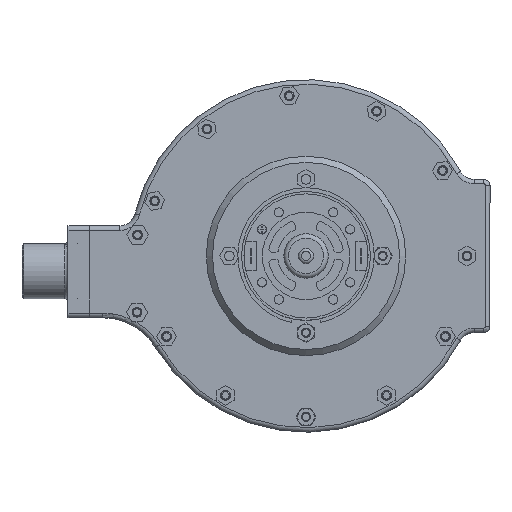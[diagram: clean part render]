
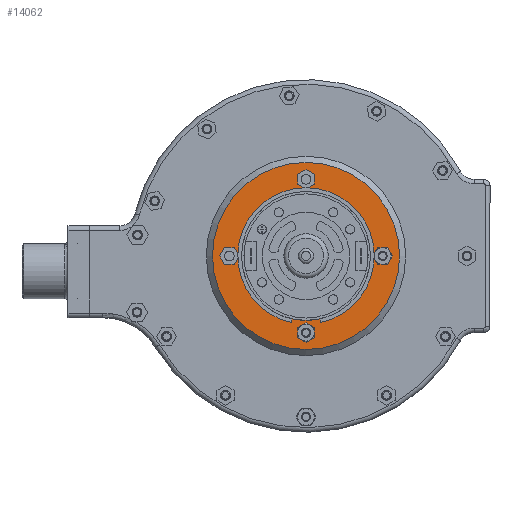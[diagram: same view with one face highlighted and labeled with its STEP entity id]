
A CAD part, front view. The second image highlights one B-rep face of the part: STEP entity #14062.
In plain terms, the highlighted planar face has unit normal (0, -1, 0).
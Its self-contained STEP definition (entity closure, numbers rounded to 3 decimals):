
#553=FACE_BOUND('',#4454,.T.);
#554=FACE_BOUND('',#4455,.T.);
#555=FACE_BOUND('',#4456,.T.);
#556=FACE_BOUND('',#4457,.T.);
#557=FACE_BOUND('',#4458,.T.);
#1156=LINE('',#25245,#2125);
#1159=LINE('',#25251,#2128);
#1162=LINE('',#25257,#2131);
#1165=LINE('',#25263,#2134);
#1168=LINE('',#25269,#2137);
#1171=LINE('',#25273,#2140);
#1174=LINE('',#25281,#2143);
#1177=LINE('',#25287,#2146);
#1180=LINE('',#25293,#2149);
#1183=LINE('',#25299,#2152);
#1186=LINE('',#25305,#2155);
#1189=LINE('',#25309,#2158);
#1192=LINE('',#25317,#2161);
#1195=LINE('',#25323,#2164);
#1198=LINE('',#25329,#2167);
#1201=LINE('',#25335,#2170);
#1204=LINE('',#25341,#2173);
#1207=LINE('',#25345,#2176);
#1210=LINE('',#25353,#2179);
#1213=LINE('',#25359,#2182);
#1216=LINE('',#25365,#2185);
#1219=LINE('',#25371,#2188);
#1222=LINE('',#25377,#2191);
#1225=LINE('',#25381,#2194);
#2125=VECTOR('',#17247,10.);
#2128=VECTOR('',#17252,10.);
#2131=VECTOR('',#17257,10.);
#2134=VECTOR('',#17262,10.);
#2137=VECTOR('',#17267,10.);
#2140=VECTOR('',#17272,10.);
#2143=VECTOR('',#17277,10.);
#2146=VECTOR('',#17282,10.);
#2149=VECTOR('',#17287,10.);
#2152=VECTOR('',#17292,10.);
#2155=VECTOR('',#17297,10.);
#2158=VECTOR('',#17302,10.);
#2161=VECTOR('',#17307,10.);
#2164=VECTOR('',#17312,10.);
#2167=VECTOR('',#17317,10.);
#2170=VECTOR('',#17322,10.);
#2173=VECTOR('',#17327,10.);
#2176=VECTOR('',#17332,10.);
#2179=VECTOR('',#17337,10.);
#2182=VECTOR('',#17342,10.);
#2185=VECTOR('',#17347,10.);
#2188=VECTOR('',#17352,10.);
#2191=VECTOR('',#17357,10.);
#2194=VECTOR('',#17362,10.);
#3080=PLANE('',#15475);
#3588=FACE_OUTER_BOUND('',#4453,.T.);
#4453=EDGE_LOOP('',(#10570));
#4454=EDGE_LOOP('',(#10571,#10572,#10573,#10574,#10575,#10576));
#4455=EDGE_LOOP('',(#10577,#10578,#10579,#10580,#10581,#10582));
#4456=EDGE_LOOP('',(#10583,#10584,#10585,#10586,#10587,#10588));
#4457=EDGE_LOOP('',(#10589,#10590,#10591,#10592,#10593,#10594));
#4458=EDGE_LOOP('',(#10595));
#5770=CIRCLE('',#15472,30.5);
#5773=CIRCLE('',#15476,16.);
#6608=VERTEX_POINT('',#25242);
#6609=VERTEX_POINT('',#25244);
#6611=VERTEX_POINT('',#25250);
#6613=VERTEX_POINT('',#25256);
#6615=VERTEX_POINT('',#25262);
#6617=VERTEX_POINT('',#25268);
#6620=VERTEX_POINT('',#25278);
#6621=VERTEX_POINT('',#25280);
#6623=VERTEX_POINT('',#25286);
#6625=VERTEX_POINT('',#25292);
#6627=VERTEX_POINT('',#25298);
#6629=VERTEX_POINT('',#25304);
#6632=VERTEX_POINT('',#25314);
#6633=VERTEX_POINT('',#25316);
#6635=VERTEX_POINT('',#25322);
#6637=VERTEX_POINT('',#25328);
#6639=VERTEX_POINT('',#25334);
#6641=VERTEX_POINT('',#25340);
#6644=VERTEX_POINT('',#25350);
#6645=VERTEX_POINT('',#25352);
#6647=VERTEX_POINT('',#25358);
#6649=VERTEX_POINT('',#25364);
#6651=VERTEX_POINT('',#25370);
#6653=VERTEX_POINT('',#25376);
#6654=VERTEX_POINT('',#25383);
#6657=VERTEX_POINT('',#25391);
#8071=EDGE_CURVE('',#6609,#6608,#1156,.T.);
#8074=EDGE_CURVE('',#6611,#6609,#1159,.T.);
#8077=EDGE_CURVE('',#6613,#6611,#1162,.T.);
#8080=EDGE_CURVE('',#6615,#6613,#1165,.T.);
#8083=EDGE_CURVE('',#6617,#6615,#1168,.T.);
#8086=EDGE_CURVE('',#6608,#6617,#1171,.T.);
#8089=EDGE_CURVE('',#6621,#6620,#1174,.T.);
#8092=EDGE_CURVE('',#6623,#6621,#1177,.T.);
#8095=EDGE_CURVE('',#6625,#6623,#1180,.T.);
#8098=EDGE_CURVE('',#6627,#6625,#1183,.T.);
#8101=EDGE_CURVE('',#6629,#6627,#1186,.T.);
#8104=EDGE_CURVE('',#6620,#6629,#1189,.T.);
#8107=EDGE_CURVE('',#6633,#6632,#1192,.T.);
#8110=EDGE_CURVE('',#6635,#6633,#1195,.T.);
#8113=EDGE_CURVE('',#6637,#6635,#1198,.T.);
#8116=EDGE_CURVE('',#6639,#6637,#1201,.T.);
#8119=EDGE_CURVE('',#6641,#6639,#1204,.T.);
#8122=EDGE_CURVE('',#6632,#6641,#1207,.T.);
#8125=EDGE_CURVE('',#6645,#6644,#1210,.T.);
#8128=EDGE_CURVE('',#6647,#6645,#1213,.T.);
#8131=EDGE_CURVE('',#6649,#6647,#1216,.T.);
#8134=EDGE_CURVE('',#6651,#6649,#1219,.T.);
#8137=EDGE_CURVE('',#6653,#6651,#1222,.T.);
#8140=EDGE_CURVE('',#6644,#6653,#1225,.T.);
#8141=EDGE_CURVE('',#6654,#6654,#5770,.T.);
#8145=EDGE_CURVE('',#6657,#6657,#5773,.T.);
#10570=ORIENTED_EDGE('',*,*,#8141,.F.);
#10571=ORIENTED_EDGE('',*,*,#8071,.T.);
#10572=ORIENTED_EDGE('',*,*,#8086,.T.);
#10573=ORIENTED_EDGE('',*,*,#8083,.T.);
#10574=ORIENTED_EDGE('',*,*,#8080,.T.);
#10575=ORIENTED_EDGE('',*,*,#8077,.T.);
#10576=ORIENTED_EDGE('',*,*,#8074,.T.);
#10577=ORIENTED_EDGE('',*,*,#8089,.T.);
#10578=ORIENTED_EDGE('',*,*,#8104,.T.);
#10579=ORIENTED_EDGE('',*,*,#8101,.T.);
#10580=ORIENTED_EDGE('',*,*,#8098,.T.);
#10581=ORIENTED_EDGE('',*,*,#8095,.T.);
#10582=ORIENTED_EDGE('',*,*,#8092,.T.);
#10583=ORIENTED_EDGE('',*,*,#8107,.T.);
#10584=ORIENTED_EDGE('',*,*,#8122,.T.);
#10585=ORIENTED_EDGE('',*,*,#8119,.T.);
#10586=ORIENTED_EDGE('',*,*,#8116,.T.);
#10587=ORIENTED_EDGE('',*,*,#8113,.T.);
#10588=ORIENTED_EDGE('',*,*,#8110,.T.);
#10589=ORIENTED_EDGE('',*,*,#8125,.T.);
#10590=ORIENTED_EDGE('',*,*,#8140,.T.);
#10591=ORIENTED_EDGE('',*,*,#8137,.T.);
#10592=ORIENTED_EDGE('',*,*,#8134,.T.);
#10593=ORIENTED_EDGE('',*,*,#8131,.T.);
#10594=ORIENTED_EDGE('',*,*,#8128,.T.);
#10595=ORIENTED_EDGE('',*,*,#8145,.F.);
#14062=ADVANCED_FACE('',(#3588,#553,#554,#555,#556,#557),#3080,.F.);
#15472=AXIS2_PLACEMENT_3D('',#25384,#17365,#17366);
#15475=AXIS2_PLACEMENT_3D('',#25390,#17372,#17373);
#15476=AXIS2_PLACEMENT_3D('',#25392,#17374,#17375);
#17247=DIRECTION('',(0.,0.,1.));
#17252=DIRECTION('',(-0.866,0.,0.5));
#17257=DIRECTION('',(-0.866,0.,-0.5));
#17262=DIRECTION('',(0.,0.,-1.));
#17267=DIRECTION('',(0.866,0.,-0.5));
#17272=DIRECTION('',(0.866,0.,0.5));
#17277=DIRECTION('',(1.,0.,0.));
#17282=DIRECTION('',(0.5,0.,0.866));
#17287=DIRECTION('',(-0.5,0.,0.866));
#17292=DIRECTION('',(-1.,0.,0.));
#17297=DIRECTION('',(-0.5,0.,-0.866));
#17302=DIRECTION('',(0.5,0.,-0.866));
#17307=DIRECTION('',(0.,0.,-1.));
#17312=DIRECTION('',(0.866,0.,-0.5));
#17317=DIRECTION('',(0.866,0.,0.5));
#17322=DIRECTION('',(0.,0.,1.));
#17327=DIRECTION('',(-0.866,0.,0.5));
#17332=DIRECTION('',(-0.866,0.,-0.5));
#17337=DIRECTION('',(-1.,0.,0.));
#17342=DIRECTION('',(-0.5,0.,-0.866));
#17347=DIRECTION('',(0.5,0.,-0.866));
#17352=DIRECTION('',(1.,0.,0.));
#17357=DIRECTION('',(0.5,0.,0.866));
#17362=DIRECTION('',(-0.5,0.,0.866));
#17365=DIRECTION('center_axis',(0.,1.,0.));
#17366=DIRECTION('ref_axis',(-1.,0.,0.));
#17372=DIRECTION('center_axis',(0.,1.,0.));
#17373=DIRECTION('ref_axis',(0.,0.,1.));
#17374=DIRECTION('center_axis',(0.,-1.,0.));
#17375=DIRECTION('ref_axis',(-1.,0.,0.));
#25242=CARTESIAN_POINT('',(-2.749,54.5,26.589));
#25244=CARTESIAN_POINT('',(-2.751,54.5,23.413));
#25245=CARTESIAN_POINT('',(-2.755,54.5,11.707));
#25250=CARTESIAN_POINT('',(-0.001,54.5,21.825));
#25251=CARTESIAN_POINT('',(4.726,54.5,19.093));
#25256=CARTESIAN_POINT('',(2.749,54.5,23.411));
#25257=CARTESIAN_POINT('',(-3.349,54.5,19.894));
#25262=CARTESIAN_POINT('',(2.751,54.5,26.587));
#25263=CARTESIAN_POINT('',(2.746,54.5,13.293));
#25268=CARTESIAN_POINT('',(0.001,54.5,28.175));
#25269=CARTESIAN_POINT('',(6.104,54.5,24.649));
#25273=CARTESIAN_POINT('',(-7.472,54.5,23.865));
#25278=CARTESIAN_POINT('',(26.589,54.5,2.749));
#25280=CARTESIAN_POINT('',(23.413,54.5,2.751));
#25281=CARTESIAN_POINT('',(11.707,54.5,2.755));
#25286=CARTESIAN_POINT('',(21.825,54.5,0.001));
#25287=CARTESIAN_POINT('',(19.093,54.5,-4.726));
#25292=CARTESIAN_POINT('',(23.411,54.5,-2.749));
#25293=CARTESIAN_POINT('',(19.894,54.5,3.349));
#25298=CARTESIAN_POINT('',(26.587,54.5,-2.751));
#25299=CARTESIAN_POINT('',(13.293,54.5,-2.746));
#25304=CARTESIAN_POINT('',(28.175,54.5,-0.001));
#25305=CARTESIAN_POINT('',(24.649,54.5,-6.104));
#25309=CARTESIAN_POINT('',(23.865,54.5,7.472));
#25314=CARTESIAN_POINT('',(2.749,54.5,-26.589));
#25316=CARTESIAN_POINT('',(2.751,54.5,-23.413));
#25317=CARTESIAN_POINT('',(2.755,54.5,-11.707));
#25322=CARTESIAN_POINT('',(0.001,54.5,-21.825));
#25323=CARTESIAN_POINT('',(-4.726,54.5,-19.093));
#25328=CARTESIAN_POINT('',(-2.749,54.5,-23.411));
#25329=CARTESIAN_POINT('',(3.349,54.5,-19.894));
#25334=CARTESIAN_POINT('',(-2.751,54.5,-26.587));
#25335=CARTESIAN_POINT('',(-2.746,54.5,-13.293));
#25340=CARTESIAN_POINT('',(-0.001,54.5,-28.175));
#25341=CARTESIAN_POINT('',(-6.104,54.5,-24.649));
#25345=CARTESIAN_POINT('',(7.472,54.5,-23.865));
#25350=CARTESIAN_POINT('',(-26.589,54.5,-2.749));
#25352=CARTESIAN_POINT('',(-23.413,54.5,-2.751));
#25353=CARTESIAN_POINT('',(-11.707,54.5,-2.755));
#25358=CARTESIAN_POINT('',(-21.825,54.5,-0.001));
#25359=CARTESIAN_POINT('',(-19.093,54.5,4.726));
#25364=CARTESIAN_POINT('',(-23.411,54.5,2.749));
#25365=CARTESIAN_POINT('',(-19.894,54.5,-3.349));
#25370=CARTESIAN_POINT('',(-26.587,54.5,2.751));
#25371=CARTESIAN_POINT('',(-13.293,54.5,2.746));
#25376=CARTESIAN_POINT('',(-28.175,54.5,0.001));
#25377=CARTESIAN_POINT('',(-24.649,54.5,6.104));
#25381=CARTESIAN_POINT('',(-23.865,54.5,-7.472));
#25383=CARTESIAN_POINT('',(30.5,54.5,0.));
#25384=CARTESIAN_POINT('Origin',(0.,54.5,0.));
#25390=CARTESIAN_POINT('Origin',(0.,54.5,0.));
#25391=CARTESIAN_POINT('',(0.,54.5,16.));
#25392=CARTESIAN_POINT('Origin',(0.,54.5,0.));
